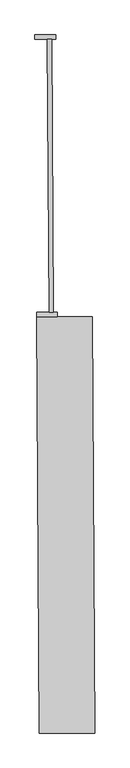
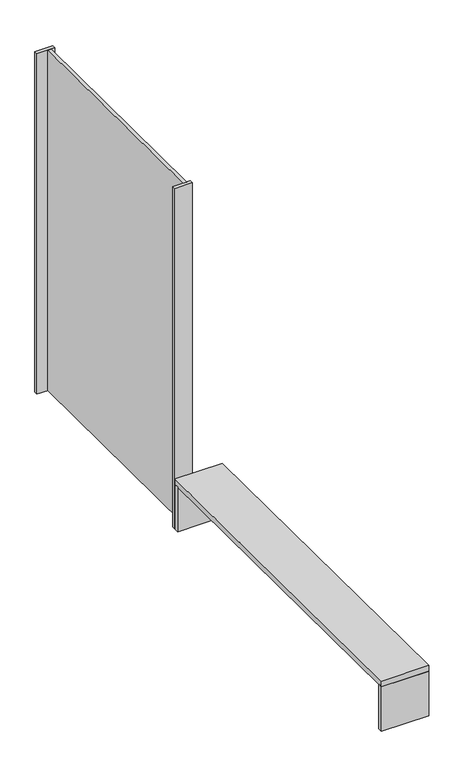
"""IFC4 building model written with IfcOpenShell, lengths in millimetres: proxy geometry, CAIXA JARDIM VERTICAL 2 : CAIXA JARDIM VERTICAL 1."""

from ifc_helpers import new_model, si_unit, frame, origin, origin_with_axes, place, context, project, spatial, polyline, outline, extrude, source, transform, mapped, element, save


def generic_models_38a1cd1e(model_context):
    return source(origin(), model_context, "Body", "SweptSolid", [
        extrude(outline(polyline([(-4105.309031, -24.7582162), (-4505.309031, -24.7582162), (-4505.309031, 15.2417838), (-4105.309031, 15.2417838), (-4105.309031, -24.7582162)])), origin_with_axes(), (0.0, 0.0, 1.0), 400.0),
        extrude(outline(polyline([(-4523.8126628, 2975.2417838), (-4123.8126628, 2975.2417838), (-4123.8126628, 2935.2417838), (-4523.8126628, 2935.2417838), (-4523.8126628, 2975.2417838)])), origin_with_axes(), (0.0, 0.0, 1.0), 400.0),
        extrude(outline(polyline([(-4105.309031, -24.7582162), (-4505.309031, -24.7582162), (-4523.8126628, 2975.2417838), (-4123.8126628, 2975.2417838), (-4105.309031, -24.7582162)])), frame((0.0, 0.0, 400.0), z_axis=(0.0, 0.0, 1.0), x_axis=(1.0, 0.0, 0.0)), (0.0, 0.0, 1.0), 50.0),
        extrude(outline(polyline([(-4403.8126628, 3005.2417838), (-4433.8126628, 3005.2417838), (-4446.3334536, 4975.2417838), (-4416.3334536, 4975.2417838), (-4403.8126628, 3005.2417838)])), origin_with_axes(), (0.0, 0.0, 1.0), 3050.0),
        extrude(outline(polyline([(-4373.8126628, 3005.2417838), (-4373.8126628, 2975.2417838), (-4523.8126628, 2975.2417838), (-4523.8126628, 3005.2417838), (-4373.8126628, 3005.2417838)])), origin_with_axes(), (0.0, 0.0, 1.0), 3050.0),
        extrude(outline(polyline([(-4386.3334536, 5005.2417838), (-4386.3334536, 4975.2417838), (-4536.3334536, 4975.2417838), (-4536.3334536, 5005.2417838), (-4386.3334536, 5005.2417838)])), origin_with_axes(), (0.0, 0.0, 1.0), 3050.0),
    ])


if __name__ == "__main__":
    model = new_model("IFC4")
    model_context = context("Model", 3, world=origin())
    ifc_project = project(units=[si_unit("LENGTHUNIT", "METRE", prefix="MILLI")], contexts=[model_context])
    site = spatial("IfcSite", under=ifc_project)
    building = spatial("IfcBuilding", under=site)
    placement = place(None, origin())
    generic_models_shape = generic_models_38a1cd1e(model_context)
    element("IfcBuildingElementProxy", 1, Name="CAIXA JARDIM VERTICAL 2 : CAIXA JARDIM VERTICAL 1", ObjectType="CAIXA JARDIM VERTICAL 2 : CAIXA JARDIM VERTICAL 1", at=placement, inside=building, context=model_context, shape_type="MappedRepresentation", body=[
        mapped(generic_models_shape, transform((0.0, 0.0, 0.0), x_axis=(1.0, 0.0, 0.0), y_axis=(0.0, 1.0, 0.0), z_axis=(0.0, 0.0, 1.0))),
    ])
    save(model, "model.ifc")
